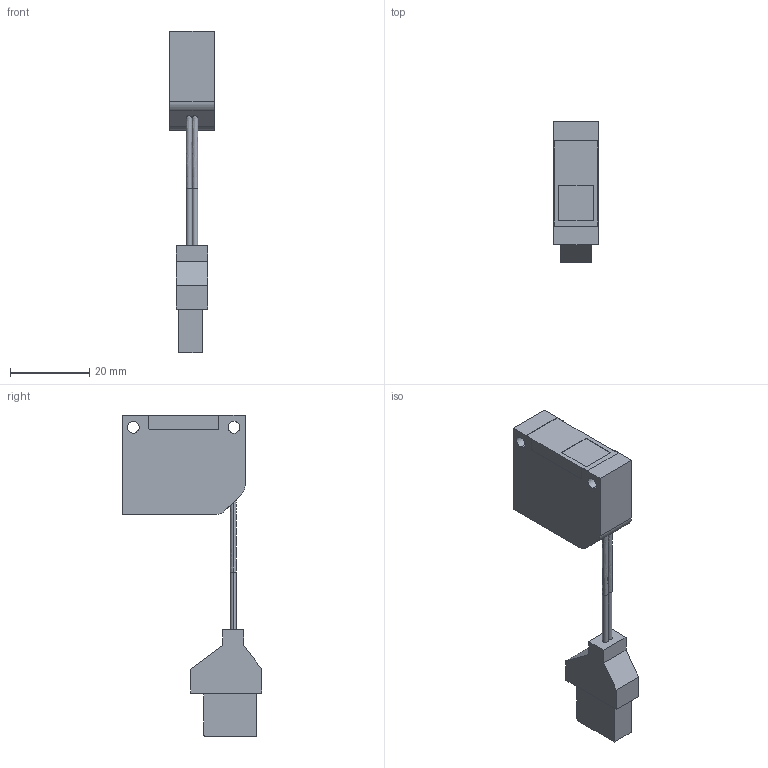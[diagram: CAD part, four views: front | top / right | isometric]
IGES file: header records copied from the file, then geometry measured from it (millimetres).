
Start section: SolidWorks IGES FILE using analytic representation for surfaces
Global section: file name: C:\Documents and Settings\yk0651\デスクトップ\3D_catalog_050929\0_IGES\LS-H91.IGS; native system: SolidWorks 2004 by SolidWorks Corporation; preprocessor: Version 5.3; author: yk0651; date: 051001.151626; units: millimetre
Bounding box: 11.2 x 35.25 x 81 mm (x, y, z)
Volume: 9507.4 mm3; surface area: 6072.7 mm2
Topology: 3 solids, 3 shells, 118 faces, 311 edges, 206 vertices
Faces by surface type: plane 89, revolution 29
